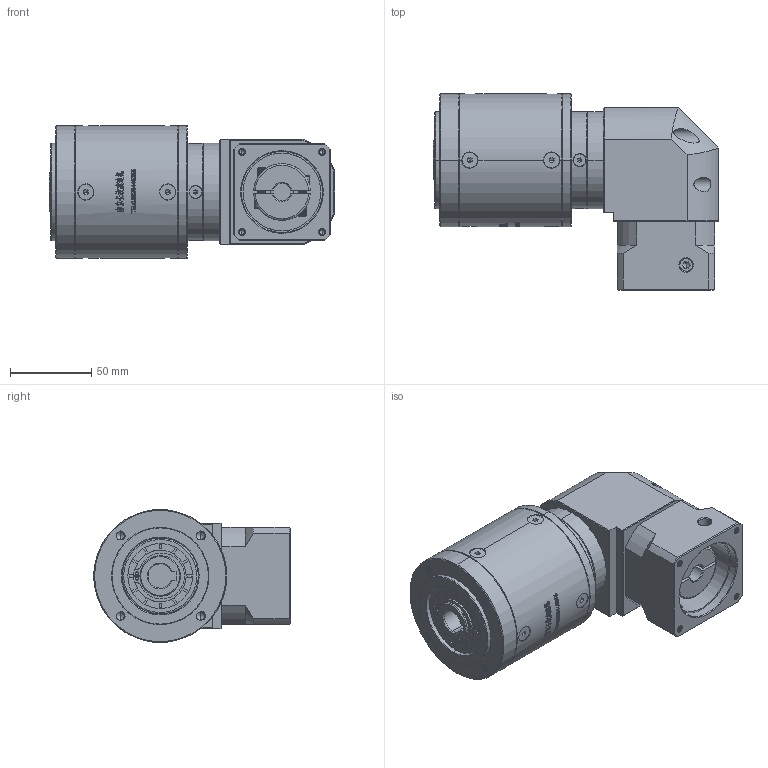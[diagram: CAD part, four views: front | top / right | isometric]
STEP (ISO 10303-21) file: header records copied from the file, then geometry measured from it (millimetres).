
FILE_DESCRIPTION (( 'STEP AP214' ), '1' );
FILE_NAME ('ZER80-K15-L3-11-50-70-M4.step', '2022-09-12T14:51:10', ( '' ), ( 'Microsoft' ), 'SwSTEP 2.0', 'SolidWorks 2016', '' );
FILE_SCHEMA (( 'AUTOMOTIVE_DESIGN' ));
Length unit declared in the file: millimetre
Products named in the file (1): ZER80-K15-L3-11-50-70-M4
Bounding box: 176 x 121.2 x 82 mm (x, y, z)
Volume: 845412.6 mm3; surface area: 102477.4 mm2
Topology: 17 solids, 18 shells, 3105 faces, 8322 edges, 5368 vertices
Faces by surface type: plane 1589, bspline 610, cylinder 525, cone 361, torus 20
Entity records: 167812 total; most frequent: CARTESIAN_POINT 61826, ORIENTED_EDGE 16540, DIRECTION 12448, EDGE_CURVE 8270, VERTEX_POINT 5368, VECTOR 5022, LINE 5022, AXIS2_PLACEMENT_3D 3713
